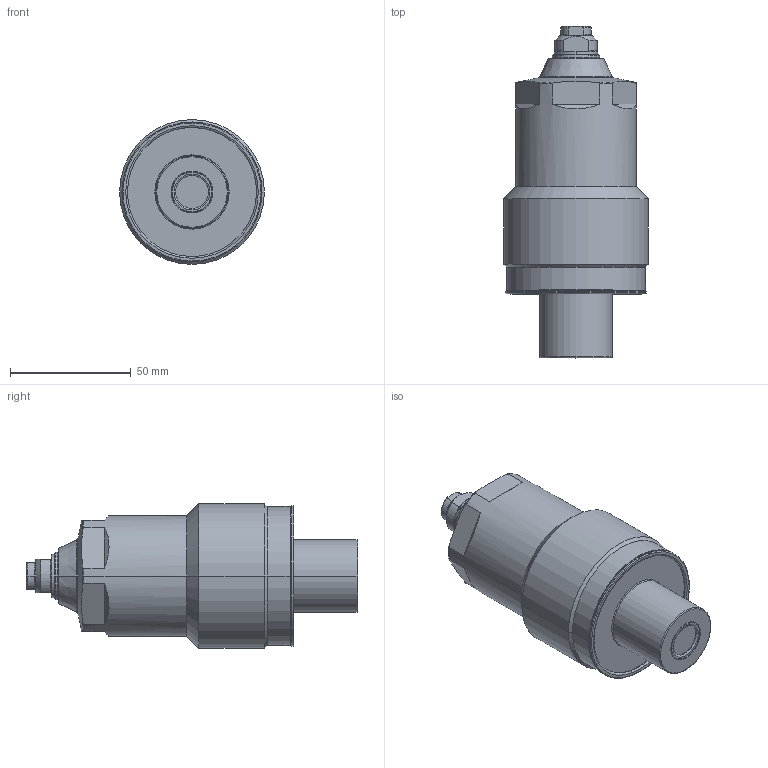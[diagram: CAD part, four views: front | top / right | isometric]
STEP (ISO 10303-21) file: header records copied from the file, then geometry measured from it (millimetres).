
FILE_DESCRIPTION(/* description */ (''),/* implementation_level */ '2;1');
FILE_NAME(/* name */ 'TNL60-Q.stp',/* time_stamp */ '2026-02-04T14:26:30+08:00',/* author */ (''),/* organization */ (''),/* preprocessor_version */ 'ST-DEVELOPER v16.7',/* originating_system */ 'SIEMENS PLM Software NX 12.0',/* authorisation */ '');
FILE_SCHEMA (('AUTOMOTIVE_DESIGN { 1 0 10303 214 3 1 1 1 }'));
Length unit declared in the file: millimetre
Products named in the file (7): XLC-M10_Oring; XLC-M10_contactbolt; TNL60-Q-02; TNL60-Q-01; TNL60-Q-04; TNL60-Q-03; WNC6003-Q_step
Assembly tree (6 placements, depth 3):
  WNC6003-Q_step
    TNL60-Q-03
      XLC-M10_contactbolt
      XLC-M10_Oring
    TNL60-Q-04
    TNL60-Q-01
    TNL60-Q-02
Bounding box: 60 x 137.5 x 60 mm (x, y, z)
Volume: 228902.1 mm3; surface area: 28634.9 mm2
Topology: 5 solids, 5 shells, 161 faces, 355 edges, 214 vertices
Faces by surface type: torus 57, cylinder 43, plane 37, cone 22, sphere 2
Entity records: 4949 total; most frequent: CARTESIAN_POINT 1127, DIRECTION 875, ORIENTED_EDGE 710, AXIS2_PLACEMENT_3D 392, EDGE_CURVE 355, CIRCLE 224, VERTEX_POINT 214, EDGE_LOOP 177
